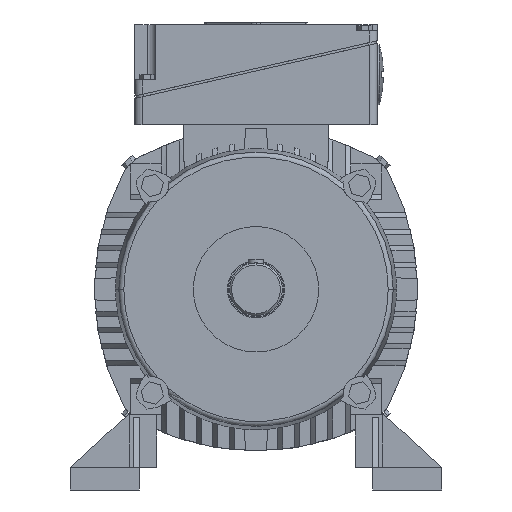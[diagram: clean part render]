
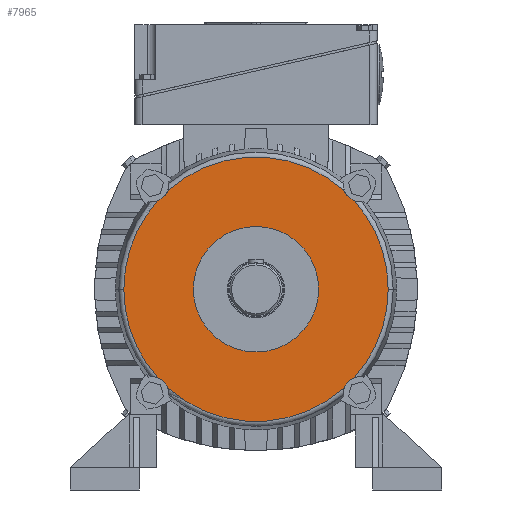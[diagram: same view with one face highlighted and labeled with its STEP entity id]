
A CAD part, front view. The second image highlights one B-rep face of the part: STEP entity #7965.
In plain terms, the highlighted planar face has unit normal (0, -1, 0).
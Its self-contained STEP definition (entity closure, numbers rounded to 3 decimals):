
#4049=EDGE_CURVE('',#9515,#9799,#11822,.T.);
#4053=VERTEX_POINT('',#11826);
#4663=VERTEX_POINT('',#12492);
#5703=EDGE_CURVE('',#6543,#9515,#13628,.T.);
#5733=EDGE_CURVE('',#9799,#4053,#13660,.T.);
#5965=VERTEX_POINT('',#13918);
#6439=EDGE_CURVE('',#6881,#9817,#14429,.T.);
#6543=VERTEX_POINT('',#14544);
#6881=VERTEX_POINT('',#14914);
#6917=EDGE_CURVE('',#10953,#8081,#14953,.T.);
#7133=EDGE_CURVE('',#5965,#9097,#15188,.T.);
#7261=VERTEX_POINT('',#15326);
#7397=VERTEX_POINT('',#15474);
#7637=EDGE_CURVE('',#7397,#5965,#15730,.T.);
#7891=EDGE_CURVE('',#10785,#6543,#16013,.T.);
#7965=ADVANCED_FACE('',(#16099,#16100),#16101,.T.);
#8081=VERTEX_POINT('',#16223);
#8141=EDGE_CURVE('',#8081,#8929,#16287,.T.);
#8687=EDGE_CURVE('',#9817,#6881,#16892,.T.);
#8929=VERTEX_POINT('',#17164);
#9097=VERTEX_POINT('',#17350);
#9273=EDGE_CURVE('',#8929,#10785,#17540,.T.);
#9515=VERTEX_POINT('',#17804);
#9799=VERTEX_POINT('',#18115);
#9817=VERTEX_POINT('',#18134);
#10027=EDGE_CURVE('',#7261,#11371,#18356,.T.);
#10049=EDGE_CURVE('',#9097,#10953,#18382,.T.);
#10785=VERTEX_POINT('',#19178);
#10953=VERTEX_POINT('',#19362);
#11053=EDGE_CURVE('',#4663,#7261,#19473,.T.);
#11145=EDGE_CURVE('',#4053,#4663,#19580,.T.);
#11371=VERTEX_POINT('',#19824);
#11565=EDGE_CURVE('',#11371,#7397,#20037,.T.);
#11822=CIRCLE('',#20459,105.36);
#11826=CARTESIAN_POINT('',(-73.539,-34.0,73.539));
#12492=CARTESIAN_POINT('',(-78.283,-34.0,70.516));
#13628=CIRCLE('',#23902,13.0);
#13660=CIRCLE('',#23979,13.0);
#13918=CARTESIAN_POINT('',(-70.516,-34.0,-78.283));
#14429=CIRCLE('',#25719,50.0);
#14544=CARTESIAN_POINT('',(73.539,-34.0,73.539));
#14914=CARTESIAN_POINT('',(50.0,-34.0,0.));
#14953=CIRCLE('',#26825,13.0);
#15188=CIRCLE('',#27280,105.36);
#15326=CARTESIAN_POINT('',(-105.36,-34.0,0.));
#15474=CARTESIAN_POINT('',(-73.539,-34.0,-73.539));
#15730=CIRCLE('',#28517,13.0);
#16013=CIRCLE('',#28983,13.0);
#16099=FACE_OUTER_BOUND('',#29111,.T.);
#16100=FACE_BOUND('',#29112,.T.);
#16101=PLANE('',#29113);
#16223=CARTESIAN_POINT('',(78.283,-34.0,-70.516));
#16287=CIRCLE('',#29460,105.36);
#16892=CIRCLE('',#30654,50.0);
#17164=CARTESIAN_POINT('',(105.36,-34.0,0.));
#17350=CARTESIAN_POINT('',(70.516,-34.0,-78.283));
#17540=CIRCLE('',#31820,105.36);
#17804=CARTESIAN_POINT('',(70.516,-34.0,78.283));
#18115=CARTESIAN_POINT('',(-70.516,-34.0,78.283));
#18134=CARTESIAN_POINT('',(-50.0,-34.0,0.));
#18356=CIRCLE('',#33593,105.36);
#18382=CIRCLE('',#33624,13.0);
#19178=CARTESIAN_POINT('',(78.283,-34.0,70.516));
#19362=CARTESIAN_POINT('',(73.539,-34.0,-73.539));
#19473=CIRCLE('',#35701,105.36);
#19580=CIRCLE('',#35834,13.0);
#19824=CARTESIAN_POINT('',(-78.283,-34.0,-70.516));
#20037=CIRCLE('',#36755,13.0);
#20459=AXIS2_PLACEMENT_3D('',#37009,#37010,#37011);
#23902=AXIS2_PLACEMENT_3D('',#39125,#39126,#39127);
#23979=AXIS2_PLACEMENT_3D('',#39155,#39156,#39157);
#25719=AXIS2_PLACEMENT_3D('',#39943,#39944,#39945);
#26825=AXIS2_PLACEMENT_3D('',#40507,#40508,#40509);
#27280=AXIS2_PLACEMENT_3D('',#40736,#40737,#40738);
#28517=AXIS2_PLACEMENT_3D('',#41234,#41235,#41236);
#28983=AXIS2_PLACEMENT_3D('',#41590,#41591,#41592);
#29111=EDGE_LOOP('',(#41720,#41721,#41722,#41723,#41724,#41725,#41726,#41727,#41728,#41729,#41730,#41731,#41732,#41733));
#29112=EDGE_LOOP('',(#41734,#41735));
#29113=AXIS2_PLACEMENT_3D('',#41736,#41737,#41738);
#29460=AXIS2_PLACEMENT_3D('',#41880,#41881,#41882);
#30654=AXIS2_PLACEMENT_3D('',#42541,#42542,#42543);
#31820=AXIS2_PLACEMENT_3D('',#43273,#43274,#43275);
#33593=AXIS2_PLACEMENT_3D('',#44061,#44062,#44063);
#33624=AXIS2_PLACEMENT_3D('',#44110,#44111,#44112);
#35701=AXIS2_PLACEMENT_3D('',#45169,#45170,#45171);
#35834=AXIS2_PLACEMENT_3D('',#45317,#45318,#45319);
#36755=AXIS2_PLACEMENT_3D('',#45758,#45759,#45760);
#37009=CARTESIAN_POINT('',(0.0,-34.0,0.0));
#37010=DIRECTION('',(0.0,-1.0,0.0));
#37011=DIRECTION('',(1.0,0.0,0.0));
#39125=CARTESIAN_POINT('',(82.731,-34.0,82.731));
#39126=DIRECTION('',(0.,1.0,0.0));
#39127=DIRECTION('',(0.707,0.,0.707));
#39155=CARTESIAN_POINT('',(-82.731,-34.0,82.731));
#39156=DIRECTION('',(0.,1.0,0.0));
#39157=DIRECTION('',(-0.707,0.,0.707));
#39943=CARTESIAN_POINT('',(0.0,-34.0,0.0));
#39944=DIRECTION('',(0.,1.0,0.0));
#39945=DIRECTION('',(1.0,0.,0.0));
#40507=CARTESIAN_POINT('',(82.731,-34.0,-82.731));
#40508=DIRECTION('',(0.,1.0,0.0));
#40509=DIRECTION('',(0.707,0.,-0.707));
#40736=CARTESIAN_POINT('',(0.0,-34.0,0.0));
#40737=DIRECTION('',(0.0,-1.0,0.0));
#40738=DIRECTION('',(1.0,0.0,0.0));
#41234=CARTESIAN_POINT('',(-82.731,-34.0,-82.731));
#41235=DIRECTION('',(0.,1.0,0.0));
#41236=DIRECTION('',(-0.707,0.,-0.707));
#41590=CARTESIAN_POINT('',(82.731,-34.0,82.731));
#41591=DIRECTION('',(0.,1.0,0.0));
#41592=DIRECTION('',(0.707,0.,0.707));
#41720=ORIENTED_EDGE('',*,*,#10049,.T.);
#41721=ORIENTED_EDGE('',*,*,#6917,.T.);
#41722=ORIENTED_EDGE('',*,*,#8141,.T.);
#41723=ORIENTED_EDGE('',*,*,#9273,.T.);
#41724=ORIENTED_EDGE('',*,*,#7891,.T.);
#41725=ORIENTED_EDGE('',*,*,#5703,.T.);
#41726=ORIENTED_EDGE('',*,*,#4049,.T.);
#41727=ORIENTED_EDGE('',*,*,#5733,.T.);
#41728=ORIENTED_EDGE('',*,*,#11145,.T.);
#41729=ORIENTED_EDGE('',*,*,#11053,.T.);
#41730=ORIENTED_EDGE('',*,*,#10027,.T.);
#41731=ORIENTED_EDGE('',*,*,#11565,.T.);
#41732=ORIENTED_EDGE('',*,*,#7637,.T.);
#41733=ORIENTED_EDGE('',*,*,#7133,.T.);
#41734=ORIENTED_EDGE('',*,*,#8687,.T.);
#41735=ORIENTED_EDGE('',*,*,#6439,.T.);
#41736=CARTESIAN_POINT('',(52.68,-34.0,0.0));
#41737=DIRECTION('',(0.,-1.0,0.0));
#41738=DIRECTION('',(1.0,0.,0.0));
#41880=CARTESIAN_POINT('',(0.0,-34.0,0.0));
#41881=DIRECTION('',(0.0,-1.0,0.0));
#41882=DIRECTION('',(1.0,0.0,0.0));
#42541=CARTESIAN_POINT('',(0.0,-34.0,0.0));
#42542=DIRECTION('',(0.,1.0,0.0));
#42543=DIRECTION('',(1.0,0.,0.0));
#43273=CARTESIAN_POINT('',(0.0,-34.0,0.0));
#43274=DIRECTION('',(0.0,-1.0,0.0));
#43275=DIRECTION('',(1.0,0.0,0.0));
#44061=CARTESIAN_POINT('',(0.0,-34.0,0.0));
#44062=DIRECTION('',(0.0,-1.0,0.0));
#44063=DIRECTION('',(1.0,0.0,0.0));
#44110=CARTESIAN_POINT('',(82.731,-34.0,-82.731));
#44111=DIRECTION('',(0.,1.0,0.0));
#44112=DIRECTION('',(0.707,0.,-0.707));
#45169=CARTESIAN_POINT('',(0.0,-34.0,0.0));
#45170=DIRECTION('',(0.0,-1.0,0.0));
#45171=DIRECTION('',(1.0,0.0,0.0));
#45317=CARTESIAN_POINT('',(-82.731,-34.0,82.731));
#45318=DIRECTION('',(0.,1.0,0.0));
#45319=DIRECTION('',(-0.707,0.,0.707));
#45758=CARTESIAN_POINT('',(-82.731,-34.0,-82.731));
#45759=DIRECTION('',(0.,1.0,0.0));
#45760=DIRECTION('',(-0.707,0.,-0.707));
